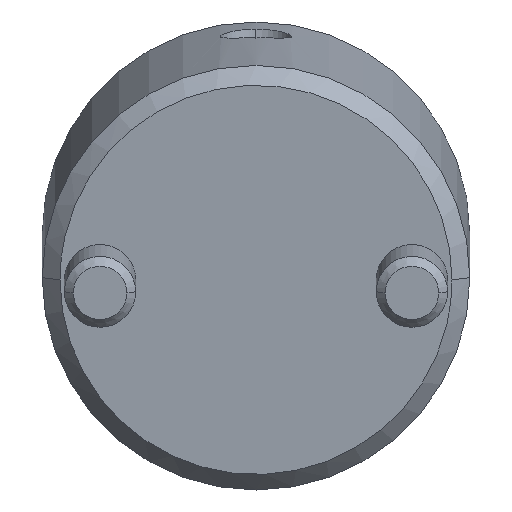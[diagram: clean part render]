
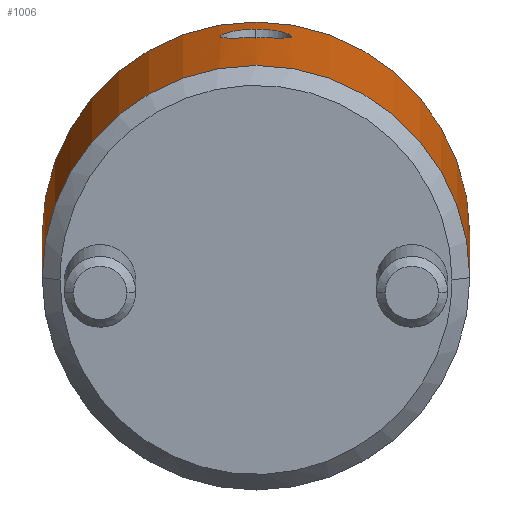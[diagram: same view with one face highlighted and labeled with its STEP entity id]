
A CAD part, front view. The second image highlights one B-rep face of the part: STEP entity #1006.
In plain terms, the highlighted cylindrical face has radius 12 mm (diameter 24 mm), a partial arc.
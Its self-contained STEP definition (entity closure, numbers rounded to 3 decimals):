
#778=CARTESIAN_POINT('Vertex',(0.,12.,1.)) ;
#781=CARTESIAN_POINT('Axis2P3D Location',(0.,0.,1.)) ;
#785=CARTESIAN_POINT('Vertex',(0.,-12.,1.)) ;
#925=CARTESIAN_POINT('Axis2P3D Location',(0.,0.,-1.1)) ;
#930=CARTESIAN_POINT('Line Origine',(0.,12.,-1.1)) ;
#934=CARTESIAN_POINT('Vertex',(0.,12.,21.)) ;
#937=CARTESIAN_POINT('Axis2P3D Location',(0.,0.,21.)) ;
#941=CARTESIAN_POINT('Vertex',(0.,-12.,21.)) ;
#944=CARTESIAN_POINT('Line Origine',(0.,-12.,-1.1)) ;
#956=CARTESIAN_POINT('Control Point',(12.,0.,17.735)) ;
#957=CARTESIAN_POINT('Control Point',(12.,0.276,17.735)) ;
#958=CARTESIAN_POINT('Control Point',(11.992,0.546,17.688)) ;
#959=CARTESIAN_POINT('Control Point',(11.976,0.81,17.59)) ;
#960=CARTESIAN_POINT('Control Point',(11.945,1.172,17.381)) ;
#961=CARTESIAN_POINT('Control Point',(11.911,1.467,17.09)) ;
#962=CARTESIAN_POINT('Control Point',(11.899,1.558,16.983)) ;
#963=CARTESIAN_POINT('Control Point',(11.865,1.802,16.641)) ;
#964=CARTESIAN_POINT('Control Point',(11.84,1.955,16.246)) ;
#965=CARTESIAN_POINT('Control Point',(11.83,2.012,15.967)) ;
#966=CARTESIAN_POINT('Control Point',(11.828,2.024,15.476)) ;
#967=CARTESIAN_POINT('Control Point',(11.85,1.894,15.005)) ;
#968=CARTESIAN_POINT('Control Point',(11.863,1.813,14.815)) ;
#969=CARTESIAN_POINT('Control Point',(11.889,1.636,14.516)) ;
#970=CARTESIAN_POINT('Control Point',(11.918,1.402,14.263)) ;
#971=CARTESIAN_POINT('Control Point',(11.93,1.299,14.17)) ;
#972=CARTESIAN_POINT('Control Point',(11.96,1.008,13.95)) ;
#973=CARTESIAN_POINT('Control Point',(11.984,0.672,13.799)) ;
#974=CARTESIAN_POINT('Control Point',(11.995,0.452,13.736)) ;
#975=CARTESIAN_POINT('Control Point',(12.,0.228,13.705)) ;
#976=CARTESIAN_POINT('Control Point',(12.,0.,13.705)) ;
#977=CARTESIAN_POINT('Vertex',(12.,0.,17.735)) ;
#979=CARTESIAN_POINT('Vertex',(12.,0.,13.705)) ;
#983=CARTESIAN_POINT('Control Point',(12.,0.,13.705)) ;
#984=CARTESIAN_POINT('Control Point',(12.,-0.278,13.705)) ;
#985=CARTESIAN_POINT('Control Point',(11.992,-0.551,13.752)) ;
#986=CARTESIAN_POINT('Control Point',(11.976,-0.821,13.848)) ;
#987=CARTESIAN_POINT('Control Point',(11.923,-1.429,14.193)) ;
#988=CARTESIAN_POINT('Control Point',(11.86,-1.845,14.767)) ;
#989=CARTESIAN_POINT('Control Point',(11.832,-1.999,15.173)) ;
#990=CARTESIAN_POINT('Control Point',(11.822,-2.06,15.811)) ;
#991=CARTESIAN_POINT('Control Point',(11.851,-1.886,16.419)) ;
#992=CARTESIAN_POINT('Control Point',(11.864,-1.803,16.612)) ;
#993=CARTESIAN_POINT('Control Point',(11.891,-1.623,16.916)) ;
#994=CARTESIAN_POINT('Control Point',(11.92,-1.386,17.173)) ;
#995=CARTESIAN_POINT('Control Point',(11.932,-1.283,17.267)) ;
#996=CARTESIAN_POINT('Control Point',(11.961,-0.994,17.488)) ;
#997=CARTESIAN_POINT('Control Point',(11.984,-0.662,17.64)) ;
#998=CARTESIAN_POINT('Control Point',(11.995,-0.446,17.704)) ;
#999=CARTESIAN_POINT('Control Point',(12.,-0.225,17.735)) ;
#1000=CARTESIAN_POINT('Control Point',(12.,0.,17.735)) ;
#782=DIRECTION('Axis2P3D Direction',(0.,0.,1.)) ;
#926=DIRECTION('Axis2P3D Direction',(0.,-0.,1.)) ;
#927=DIRECTION('Axis2P3D XDirection',(0.,-1.,0.)) ;
#931=DIRECTION('Vector Direction',(0.,0.,1.)) ;
#938=DIRECTION('Axis2P3D Direction',(0.,-0.,1.)) ;
#945=DIRECTION('Vector Direction',(0.,0.,1.)) ;
#783=AXIS2_PLACEMENT_3D('Circle Axis2P3D',#781,#782,$) ;
#928=AXIS2_PLACEMENT_3D('Cylinder Axis2P3D',#925,#926,#927) ;
#939=AXIS2_PLACEMENT_3D('Circle Axis2P3D',#937,#938,$) ;
#950=ORIENTED_EDGE('',*,*,#936,.F.) ;
#951=ORIENTED_EDGE('',*,*,#943,.T.) ;
#952=ORIENTED_EDGE('',*,*,#948,.T.) ;
#953=ORIENTED_EDGE('',*,*,#787,.F.) ;
#1003=ORIENTED_EDGE('',*,*,#981,.T.) ;
#1004=ORIENTED_EDGE('',*,*,#1001,.T.) ;
#1005=FACE_BOUND('',#1002,.T.) ;
#932=VECTOR('Line Direction',#931,1.) ;
#946=VECTOR('Line Direction',#945,1.) ;
#1006=ADVANCED_FACE('MANIFOLD_SOLID_BREP #1096',(#954,#1005),#929,.T.) ;
#955=B_SPLINE_CURVE_WITH_KNOTS('',5,(#956,#957,#958,#959,#960,#961,#962,#963,#964,#965,#966,#967,#968,#969,#970,#971,#972,#973,#974,#975,#976),.UNSPECIFIED.,.F.,.U.,(6,3,3,3,3,3,6),(0.,1.942,2.934,4.901,6.365,7.343,8.945),.UNSPECIFIED.) ;
#982=B_SPLINE_CURVE_WITH_KNOTS('',5,(#983,#984,#985,#986,#987,#988,#989,#990,#991,#992,#993,#994,#995,#996,#997,#998,#999,#1000),.UNSPECIFIED.,.F.,.U.,(6,3,3,3,3,6),(0.,1.959,4.891,6.374,7.362,8.944),.UNSPECIFIED.) ;
#784=CIRCLE('generated circle',#783,12.) ;
#940=CIRCLE('generated circle',#939,12.) ;
#929=CYLINDRICAL_SURFACE('generated cylinder',#928,12.) ;
#787=EDGE_CURVE('',#779,#786,#784,.F.) ;
#936=EDGE_CURVE('',#935,#779,#933,.F.) ;
#943=EDGE_CURVE('',#935,#942,#940,.F.) ;
#948=EDGE_CURVE('',#942,#786,#947,.F.) ;
#981=EDGE_CURVE('',#978,#980,#955,.T.) ;
#1001=EDGE_CURVE('',#980,#978,#982,.T.) ;
#949=EDGE_LOOP('',(#950,#951,#952,#953)) ;
#1002=EDGE_LOOP('',(#1003,#1004)) ;
#954=FACE_OUTER_BOUND('',#949,.T.) ;
#933=LINE('Line',#930,#932) ;
#947=LINE('Line',#944,#946) ;
#779=VERTEX_POINT('',#778) ;
#786=VERTEX_POINT('',#785) ;
#935=VERTEX_POINT('',#934) ;
#942=VERTEX_POINT('',#941) ;
#978=VERTEX_POINT('',#977) ;
#980=VERTEX_POINT('',#979) ;
